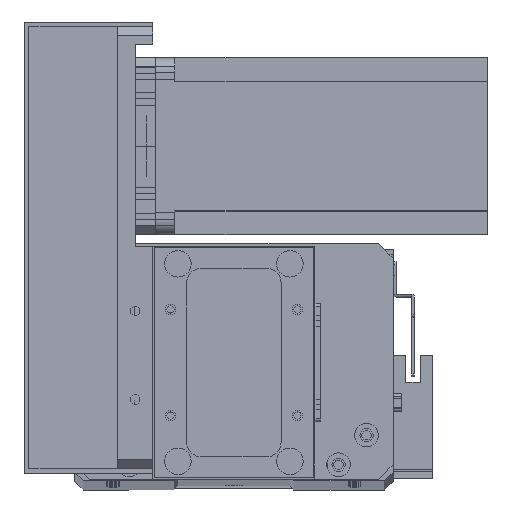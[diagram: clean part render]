
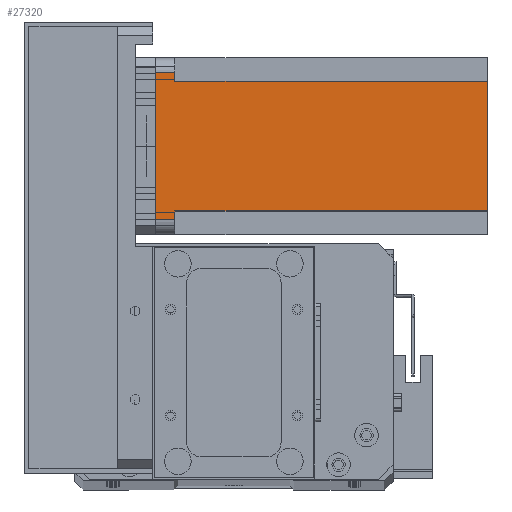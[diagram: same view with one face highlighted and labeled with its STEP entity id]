
A CAD part, top view. The second image highlights one B-rep face of the part: STEP entity #27320.
In plain terms, the highlighted planar face has unit normal (0, 0, 1) as drawn and (0, -1, 0) by its records, which use the part's own axes.
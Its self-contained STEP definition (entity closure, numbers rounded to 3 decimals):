
#678 = LINE ( 'NONE', #23776, #13273 ) ;
#1829 = CARTESIAN_POINT ( 'NONE',  ( 52., 0., -6.5 ) ) ;
#2296 = CARTESIAN_POINT ( 'NONE',  ( 8., 0., -112.5 ) ) ;
#2308 = LINE ( 'NONE', #5013, #24009 ) ;
#2772 = EDGE_CURVE ( 'NONE', #26732, #2946, #678, .T. ) ;
#2946 = VERTEX_POINT ( 'NONE', #21736 ) ;
#3148 = VECTOR ( 'NONE', #21094, 1000. ) ;
#3770 = CARTESIAN_POINT ( 'NONE',  ( 0., 0., 0. ) ) ;
#3901 = VERTEX_POINT ( 'NONE', #10459 ) ;
#4334 = VERTEX_POINT ( 'NONE', #27987 ) ;
#4642 = EDGE_LOOP ( 'NONE', ( #16250, #24878, #31189, #15822, #19144, #21464, #30433, #29247 ) ) ;
#4971 = FACE_OUTER_BOUND ( 'NONE', #4642, .T. ) ;
#5013 = CARTESIAN_POINT ( 'NONE',  ( 55., 0., -112.5 ) ) ;
#5840 = VERTEX_POINT ( 'NONE', #1829 ) ;
#6588 = LINE ( 'NONE', #2296, #26251 ) ;
#7080 = LINE ( 'NONE', #19075, #7869 ) ;
#7869 = VECTOR ( 'NONE', #24005, 1000. ) ;
#7929 = CARTESIAN_POINT ( 'NONE',  ( 55., 0., -6.5 ) ) ;
#8263 = EDGE_CURVE ( 'NONE', #5840, #9129, #7080, .T. ) ;
#9129 = VERTEX_POINT ( 'NONE', #7929 ) ;
#9645 = LINE ( 'NONE', #17063, #28398 ) ;
#9780 = DIRECTION ( 'NONE',  ( 0., 0., -1. ) ) ;
#9819 = CARTESIAN_POINT ( 'NONE',  ( 8., 0., -112.5 ) ) ;
#10459 = CARTESIAN_POINT ( 'NONE',  ( 55., 0., 0. ) ) ;
#10967 = EDGE_CURVE ( 'NONE', #30701, #3901, #20591, .T. ) ;
#11346 = VECTOR ( 'NONE', #24713, 1000. ) ;
#11461 = AXIS2_PLACEMENT_3D ( 'NONE', #14855, #31852, #17277 ) ;
#11521 = CARTESIAN_POINT ( 'NONE',  ( 5., 0., 0. ) ) ;
#12134 = LINE ( 'NONE', #25111, #24397 ) ;
#12898 = DIRECTION ( 'NONE',  ( 0., 0., -1. ) ) ;
#13045 = EDGE_CURVE ( 'NONE', #26732, #16116, #6588, .T. ) ;
#13273 = VECTOR ( 'NONE', #14996, 1000. ) ;
#14855 = CARTESIAN_POINT ( 'NONE',  ( 0., 0., -112.5 ) ) ;
#14996 = DIRECTION ( 'NONE',  ( 1., 0., 0. ) ) ;
#15706 = EDGE_CURVE ( 'NONE', #5840, #2946, #12134, .T. ) ;
#15822 = ORIENTED_EDGE ( 'NONE', *, *, #18120, .T. ) ;
#16116 = VERTEX_POINT ( 'NONE', #31389 ) ;
#16250 = ORIENTED_EDGE ( 'NONE', *, *, #8263, .T. ) ;
#17063 = CARTESIAN_POINT ( 'NONE',  ( 5., 0., -112.5 ) ) ;
#17277 = DIRECTION ( 'NONE',  ( 0., 0., -1. ) ) ;
#18120 = EDGE_CURVE ( 'NONE', #30701, #4334, #9645, .T. ) ;
#19075 = CARTESIAN_POINT ( 'NONE',  ( 52., 0., -6.5 ) ) ;
#19144 = ORIENTED_EDGE ( 'NONE', *, *, #29386, .F. ) ;
#19666 = DIRECTION ( 'NONE',  ( 0., 0., 1. ) ) ;
#20591 = LINE ( 'NONE', #3770, #3148 ) ;
#21094 = DIRECTION ( 'NONE',  ( 1., 0., 0. ) ) ;
#21464 = ORIENTED_EDGE ( 'NONE', *, *, #13045, .F. ) ;
#21736 = CARTESIAN_POINT ( 'NONE',  ( 52., 0., -112.5 ) ) ;
#22125 = PLANE ( 'NONE',  #11461 ) ;
#22242 = CARTESIAN_POINT ( 'NONE',  ( 8., 0., -6.5 ) ) ;
#22320 = DIRECTION ( 'NONE',  ( 0., 0., 1. ) ) ;
#23776 = CARTESIAN_POINT ( 'NONE',  ( 0., 0., -112.5 ) ) ;
#24005 = DIRECTION ( 'NONE',  ( 1., 0., 0. ) ) ;
#24009 = VECTOR ( 'NONE', #22320, 1000. ) ;
#24397 = VECTOR ( 'NONE', #12898, 1000. ) ;
#24713 = DIRECTION ( 'NONE',  ( -1., 0., 0. ) ) ;
#24878 = ORIENTED_EDGE ( 'NONE', *, *, #25146, .T. ) ;
#25111 = CARTESIAN_POINT ( 'NONE',  ( 52., 0., -112.5 ) ) ;
#25146 = EDGE_CURVE ( 'NONE', #9129, #3901, #2308, .T. ) ;
#25911 = LINE ( 'NONE', #22242, #11346 ) ;
#26251 = VECTOR ( 'NONE', #19666, 1000. ) ;
#26732 = VERTEX_POINT ( 'NONE', #9819 ) ;
#27320 = ADVANCED_FACE ( 'NONE', ( #4971 ), #22125, .T. ) ;
#27987 = CARTESIAN_POINT ( 'NONE',  ( 5., 0., -6.5 ) ) ;
#28398 = VECTOR ( 'NONE', #9780, 1000. ) ;
#29247 = ORIENTED_EDGE ( 'NONE', *, *, #15706, .F. ) ;
#29386 = EDGE_CURVE ( 'NONE', #16116, #4334, #25911, .T. ) ;
#30433 = ORIENTED_EDGE ( 'NONE', *, *, #2772, .T. ) ;
#30701 = VERTEX_POINT ( 'NONE', #11521 ) ;
#31189 = ORIENTED_EDGE ( 'NONE', *, *, #10967, .F. ) ;
#31389 = CARTESIAN_POINT ( 'NONE',  ( 8., 0., -6.5 ) ) ;
#31852 = DIRECTION ( 'NONE',  ( 0., -1., 0. ) ) ;
